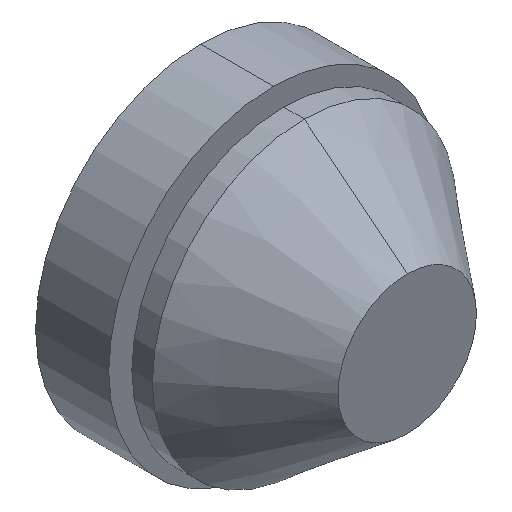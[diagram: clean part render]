
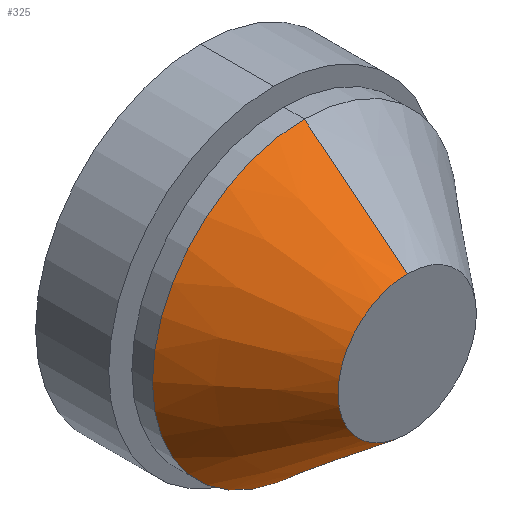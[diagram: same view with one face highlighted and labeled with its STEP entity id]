
A CAD part, isometric view. The second image highlights one B-rep face of the part: STEP entity #325.
In plain terms, the highlighted conical face has half-angle 38.767 degrees and reference radius 6.719 mm.
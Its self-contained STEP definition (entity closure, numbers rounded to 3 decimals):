
#30 = AXIS2_PLACEMENT_3D ( 'NONE', #306, #308, #313 ) ;
#58 = DIRECTION ( 'NONE',  ( 0., 0.78, 0.626 ) ) ;
#60 = CARTESIAN_POINT ( 'NONE',  ( 0., 0., 6.719 ) ) ;
#67 = CARTESIAN_POINT ( 'NONE',  ( 0., 0., -6.719 ) ) ;
#69 = DIRECTION ( 'NONE',  ( 0., 0.78, -0.626 ) ) ;
#90 = LINE ( 'NONE', #67, #178 ) ;
#152 = CONICAL_SURFACE ( 'NONE', #30, 6.719, 0.677 ) ;
#158 = FACE_OUTER_BOUND ( 'NONE', #336, .T. ) ;
#173 = CIRCLE ( 'NONE', #201, 6.719 ) ;
#174 = CIRCLE ( 'NONE', #202, 14.75 ) ;
#175 = VECTOR ( 'NONE', #58, 1000. ) ;
#176 = LINE ( 'NONE', #60, #175 ) ;
#178 = VECTOR ( 'NONE', #69, 1000. ) ;
#185 = EDGE_CURVE ( 'NONE', #348, #332, #90, .T. ) ;
#186 = EDGE_CURVE ( 'NONE', #347, #355, #176, .T. ) ;
#187 = EDGE_CURVE ( 'NONE', #347, #348, #173, .T. ) ;
#188 = EDGE_CURVE ( 'NONE', #355, #332, #174, .T. ) ;
#201 = AXIS2_PLACEMENT_3D ( 'NONE', #281, #272, #268 ) ;
#202 = AXIS2_PLACEMENT_3D ( 'NONE', #284, #283, #282 ) ;
#233 = CARTESIAN_POINT ( 'NONE',  ( 0., 0., 6.719 ) ) ;
#245 = CARTESIAN_POINT ( 'NONE',  ( 0., 10., 14.75 ) ) ;
#254 = CARTESIAN_POINT ( 'NONE',  ( 0., 10., -14.75 ) ) ;
#255 = CARTESIAN_POINT ( 'NONE',  ( 0., 0., -6.719 ) ) ;
#268 = DIRECTION ( 'NONE',  ( 0., 0., -1. ) ) ;
#272 = DIRECTION ( 'NONE',  ( 0., -1., 0. ) ) ;
#281 = CARTESIAN_POINT ( 'NONE',  ( 0., 0., 0. ) ) ;
#282 = DIRECTION ( 'NONE',  ( 0., 0., -1. ) ) ;
#283 = DIRECTION ( 'NONE',  ( 0., -1., 0. ) ) ;
#284 = CARTESIAN_POINT ( 'NONE',  ( 0., 10., 0. ) ) ;
#306 = CARTESIAN_POINT ( 'NONE',  ( 0., 0., 0. ) ) ;
#308 = DIRECTION ( 'NONE',  ( 0., 1., 0. ) ) ;
#313 = DIRECTION ( 'NONE',  ( 0., 0., 1. ) ) ;
#325 = ADVANCED_FACE ( 'NONE', ( #158 ), #152, .T. ) ;
#332 = VERTEX_POINT ( 'NONE', #254 ) ;
#336 = EDGE_LOOP ( 'NONE', ( #343, #381, #380, #353 ) ) ;
#343 = ORIENTED_EDGE ( 'NONE', *, *, #185, .F. ) ;
#347 = VERTEX_POINT ( 'NONE', #233 ) ;
#348 = VERTEX_POINT ( 'NONE', #255 ) ;
#353 = ORIENTED_EDGE ( 'NONE', *, *, #188, .T. ) ;
#355 = VERTEX_POINT ( 'NONE', #245 ) ;
#380 = ORIENTED_EDGE ( 'NONE', *, *, #186, .T. ) ;
#381 = ORIENTED_EDGE ( 'NONE', *, *, #187, .F. ) ;
